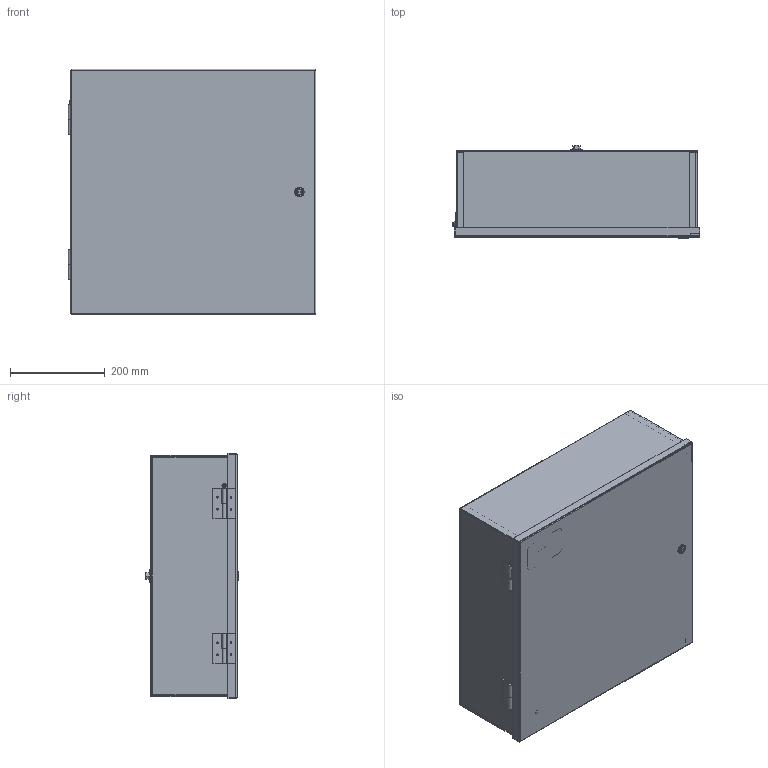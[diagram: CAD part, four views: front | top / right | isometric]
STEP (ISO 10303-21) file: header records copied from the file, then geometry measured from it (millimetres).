
FILE_DESCRIPTION(/* description */ ('Unknown'),/* implementation_level */ '2;1');
FILE_NAME(/* name */ 'N1A20207',/* time_stamp */ '2019-02-07T11:56:26-05:00',/* author */ ('Unknown'),/* organization */ ('Unknown'),/* preprocessor_version */ 'ST-DEVELOPER v16.7',/* originating_system */ 'DEX',/* authorisation */ $);
FILE_SCHEMA (('AUTOMOTIVE_DESIGN {1 0 10303 214 3 1 1}'));
Length unit declared in the file: millimetre
Products named in the file (23): N1A20207; COM43478; HNG10680; STD21878; HNG10680-FM; COM48697; KIT95018; WAF25059; NTS166105; LAB30005; COM48681; COM48653; GSK10080; std26094; SCS19491; AKT95002; QLB20223; COM43455; LOC130655; KIT90256; NTS165305; NTS16535
Assembly tree (33 placements, depth 3):
  N1A20207
    COM43478
      HNG10680  x2
      STD21878
      COM43478
    HNG10680-FM  x2
    COM48697
    KIT95018
      WAF25059
      NTS166105
      LAB30005
    COM48681
    COM48653
    GSK10080  x2
    std26094  x4
    SCS19491
    STD21878
    AKT95002  x2
      WAF25059
      NTS166105
    QLB20223
    COM43455
    LOC130655
    KIT90256
      LAB30005
      NTS165305
      NTS16535
Bounding box: 522.59 x 195.96 x 517.75 mm (x, y, z)
Volume: 2179586.1 mm3; surface area: 2397928.3 mm2
Topology: 28 solids, 28 shells, 548 faces, 1296 edges, 842 vertices
Faces by surface type: plane 372, cylinder 119, bspline 23, cone 20, torus 14
Full cylindrical faces by diameter (mm): 3.251 x8, 3.556 x8, 4.318 x1, 4.763 x2, 4.826 x1, 4.976 x1, 6.35 x3, 7.137 x2, 7.805 x3, 7.925 x2, 8.382 x4, 9.525 x5, 11.303 x3, 12.7 x4, 13.106 x1, 13.589 x1, 16.51 x4, 20.015 x1, 25.4 x3
Entity records: 14677 total; most frequent: CARTESIAN_POINT 3917, ORIENTED_EDGE 2058, DIRECTION 2047, EDGE_CURVE 1029, AXIS2_PLACEMENT_3D 699, VERTEX_POINT 687, LINE 649, VECTOR 649
